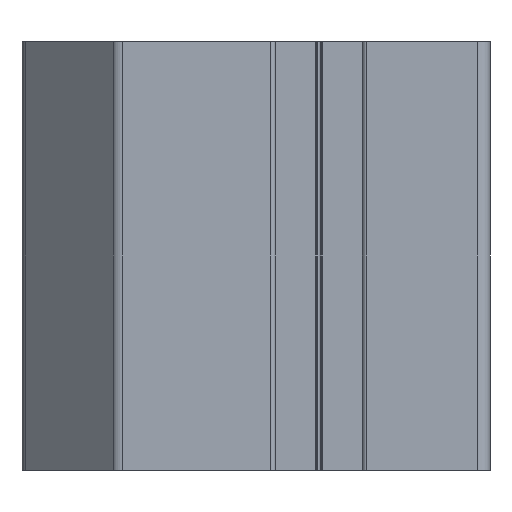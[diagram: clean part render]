
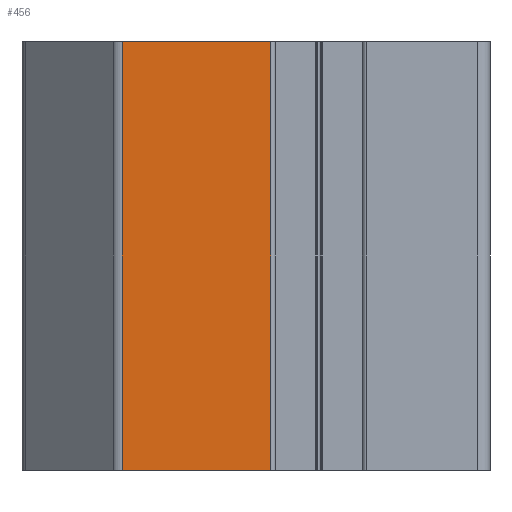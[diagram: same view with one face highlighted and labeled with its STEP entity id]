
A CAD part, front view. The second image highlights one B-rep face of the part: STEP entity #456.
In plain terms, the highlighted planar face has unit normal (0, -1, 0).
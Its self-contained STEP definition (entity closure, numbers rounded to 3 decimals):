
#456=ADVANCED_FACE('',(#954),#955,.F.);
#954=FACE_OUTER_BOUND('',#1481,.T.);
#955=PLANE('',#1482);
#1481=EDGE_LOOP('',(#2975,#2976,#2977,#2978));
#1482=AXIS2_PLACEMENT_3D('',#2979,#2980,#2981);
#2975=ORIENTED_EDGE('',*,*,#3749,.T.);
#2976=ORIENTED_EDGE('',*,*,#3861,.F.);
#2977=ORIENTED_EDGE('',*,*,#3837,.F.);
#2978=ORIENTED_EDGE('',*,*,#3662,.T.);
#2979=CARTESIAN_POINT('',(-25.6,0.,0.));
#2980=DIRECTION('',(0.0,1.0,0.0));
#2981=DIRECTION('',(0.0,0.0,-1.0));
#3662=EDGE_CURVE('',#4581,#4579,#4582,.T.);
#3749=EDGE_CURVE('',#4579,#4714,#4716,.T.);
#3837=EDGE_CURVE('',#4581,#4836,#4837,.T.);
#3861=EDGE_CURVE('',#4836,#4714,#4871,.T.);
#4579=VERTEX_POINT('',#5785);
#4581=VERTEX_POINT('',#5787);
#4582=LINE('',#5788,#5789);
#4714=VERTEX_POINT('',#5967);
#4716=LINE('',#5969,#5970);
#4836=VERTEX_POINT('',#6136);
#4837=LINE('',#6137,#6138);
#4871=LINE('',#6186,#6187);
#5785=CARTESIAN_POINT('',(-25.6,0.,50.0));
#5787=CARTESIAN_POINT('',(-25.6,0.,0.));
#5788=CARTESIAN_POINT('',(-25.6,0.,0.));
#5789=VECTOR('',#6797,1.0);
#5967=CARTESIAN_POINT('',(-42.947,0.,50.0));
#5969=CARTESIAN_POINT('',(-25.6,0.,50.0));
#5970=VECTOR('',#6943,1.0);
#6136=CARTESIAN_POINT('',(-42.947,0.,0.));
#6137=CARTESIAN_POINT('',(-25.6,0.,0.));
#6138=VECTOR('',#7092,1.0);
#6186=CARTESIAN_POINT('',(-42.947,0.,0.));
#6187=VECTOR('',#7125,1.0);
#6797=DIRECTION('',(0.0,0.0,1.0));
#6943=DIRECTION('',(-1.0,0.0,0.0));
#7092=DIRECTION('',(-1.0,0.0,0.0));
#7125=DIRECTION('',(0.0,0.0,1.0));
